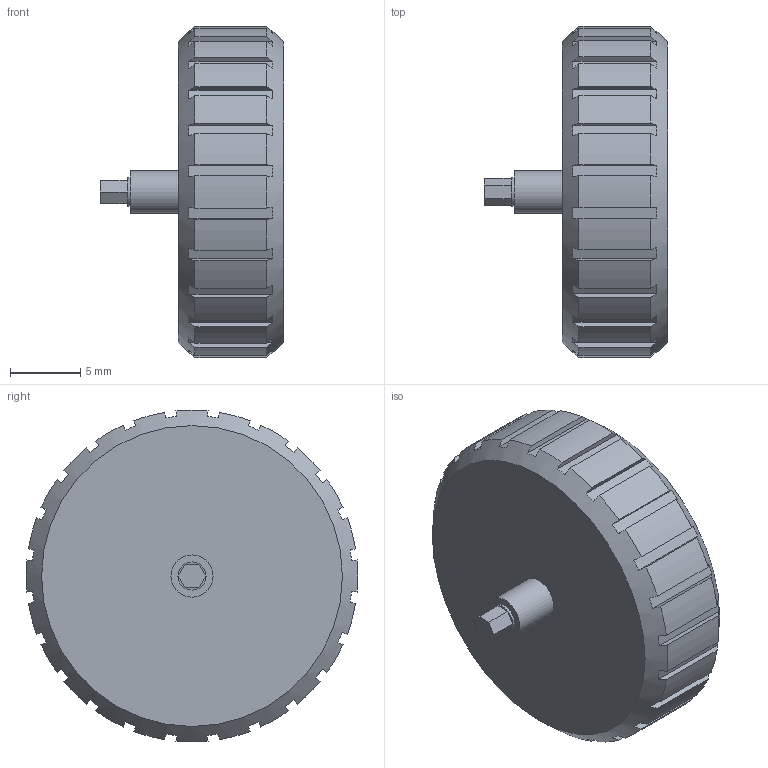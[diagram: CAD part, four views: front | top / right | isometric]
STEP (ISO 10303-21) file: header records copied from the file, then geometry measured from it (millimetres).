
FILE_DESCRIPTION(('Open CASCADE Model'),'2;1');
FILE_NAME('Open CASCADE Shape Model','2026-11-25T23:20:23',('Author'),( 'Open CASCADE'),'Open CASCADE STEP processor 7.9','build123d', 'Unknown');
FILE_SCHEMA(('AUTOMOTIVE_DESIGN { 1 0 10303 214 1 1 1 1 }'));
Length unit declared in the file: millimetre
Products named in the file (1): SOLID
Bounding box: 13.02 x 23.59 x 23.59 mm (x, y, z)
Volume: 3151.2 mm3; surface area: 1514.8 mm2
Topology: 1 solids, 1 shells, 113 faces, 321 edges, 214 vertices
Faces by surface type: plane 84, cylinder 27, cone 2
Full cylindrical faces by diameter (mm): 2 x2, 3 x1
Entity records: 8156 total; most frequent: CARTESIAN_POINT 2411, DIRECTION 993, ORIENTED_EDGE 642, PCURVE 642, DEFINITIONAL_REPRESENTATION 642, LINE 353, VECTOR 353, EDGE_CURVE 321
